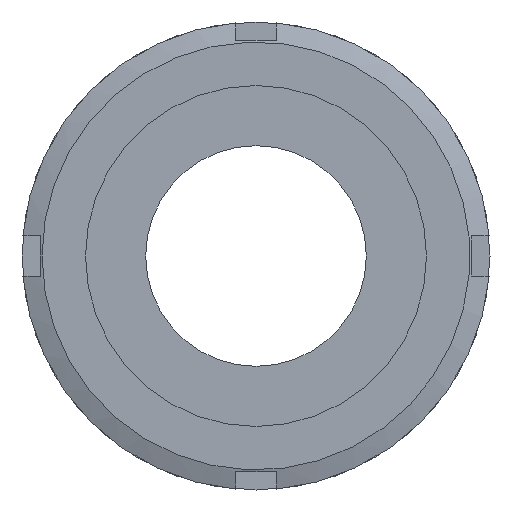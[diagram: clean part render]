
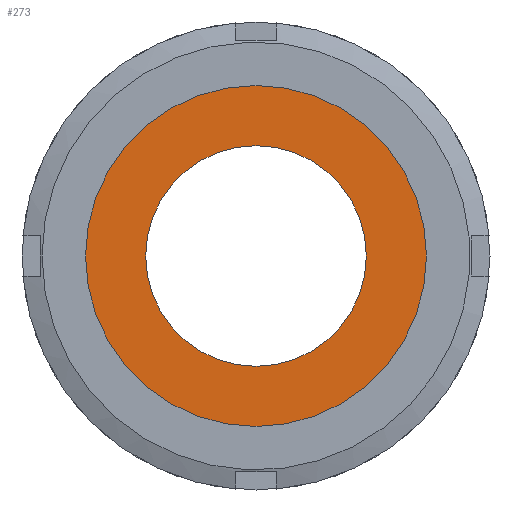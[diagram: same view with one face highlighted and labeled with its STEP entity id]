
A CAD part, left-side view. The second image highlights one B-rep face of the part: STEP entity #273.
In plain terms, the highlighted planar face has unit normal (-1, 0, 0) as drawn and (0, -1, 0) by its records, which use the part's own axes.
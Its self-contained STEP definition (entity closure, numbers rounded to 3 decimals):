
#273 = ADVANCED_FACE( '', ( #402, #403 ), #404, .T. );
#402 = FACE_OUTER_BOUND( '', #610, .T. );
#403 = FACE_BOUND( '', #611, .T. );
#404 = PLANE( '', #612 );
#610 = EDGE_LOOP( '', ( #961 ) );
#611 = EDGE_LOOP( '', ( #962 ) );
#612 = AXIS2_PLACEMENT_3D( '', #963, #964, #965 );
#961 = ORIENTED_EDGE( '', *, *, #1422, .T. );
#962 = ORIENTED_EDGE( '', *, *, #1423, .F. );
#963 = CARTESIAN_POINT( '', ( 16.5, 0., 0. ) );
#964 = DIRECTION( '', ( 0., -1., 0. ) );
#965 = DIRECTION( '', ( 0., 0., -1. ) );
#1422 = EDGE_CURVE( '', #1649, #1649, #1650, .T. );
#1423 = EDGE_CURVE( '', #1651, #1651, #1652, .T. );
#1649 = VERTEX_POINT( '', #2105 );
#1650 = CIRCLE( '', #2106, 25.5 );
#1651 = VERTEX_POINT( '', #2107 );
#1652 = CIRCLE( '', #2108, 16.5 );
#2105 = CARTESIAN_POINT( '', ( 0., 0., -25.5 ) );
#2106 = AXIS2_PLACEMENT_3D( '', #2580, #2581, #2582 );
#2107 = CARTESIAN_POINT( '', ( 0., 0., -16.5 ) );
#2108 = AXIS2_PLACEMENT_3D( '', #2583, #2584, #2585 );
#2580 = CARTESIAN_POINT( '', ( 0., 0., 0. ) );
#2581 = DIRECTION( '', ( 0., -1., 0. ) );
#2582 = DIRECTION( '', ( 0., 0., -1. ) );
#2583 = CARTESIAN_POINT( '', ( 0., 0., 0. ) );
#2584 = DIRECTION( '', ( 0., -1., 0. ) );
#2585 = DIRECTION( '', ( 0., 0., -1. ) );
